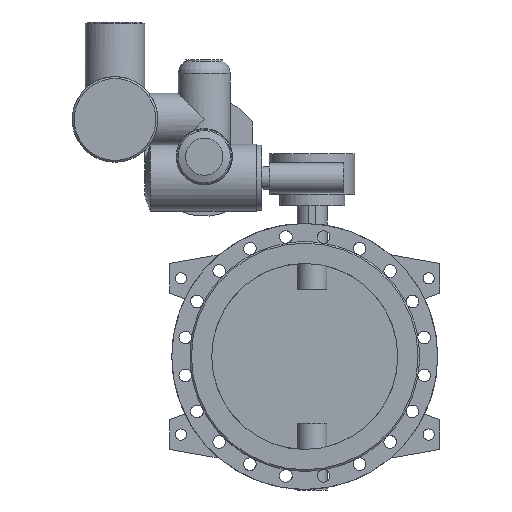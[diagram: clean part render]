
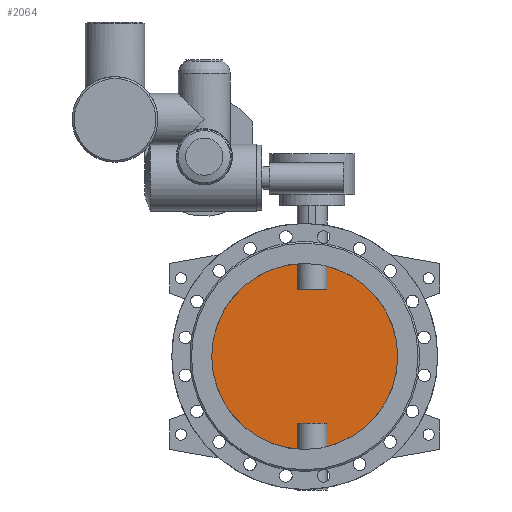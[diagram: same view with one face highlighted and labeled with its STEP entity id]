
A CAD part, front view. The second image highlights one B-rep face of the part: STEP entity #2064.
In plain terms, the highlighted planar face has unit normal (0, -1, 0).
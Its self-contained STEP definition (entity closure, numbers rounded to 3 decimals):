
#2064=ADVANCED_FACE('',(#4057),#4059,.F.);
#4057=FACE_BOUND('',#4058,.T.);
#4058=EDGE_LOOP('',(#5239,#5240,#5241,#5242,#5243,#5244,#5245,#5246));
#4059=PLANE('',#4060);
#4060=AXIS2_PLACEMENT_3D('',#4061,#4062,#4063);
#4061=CARTESIAN_POINT('',(0.,-5.,0.));
#4062=DIRECTION('',(0.,1.,0.));
#4063=DIRECTION('',(1.,0.,0.));
#5239=ORIENTED_EDGE('',*,*,#5831,.T.);
#5240=ORIENTED_EDGE('',*,*,#5836,.T.);
#5241=ORIENTED_EDGE('',*,*,#5837,.T.);
#5242=ORIENTED_EDGE('',*,*,#5838,.T.);
#5243=ORIENTED_EDGE('',*,*,#5833,.T.);
#5244=ORIENTED_EDGE('',*,*,#5839,.T.);
#5245=ORIENTED_EDGE('',*,*,#5840,.T.);
#5246=ORIENTED_EDGE('',*,*,#5841,.T.);
#5831=EDGE_CURVE('',#6857,#6858,#6859,.F.);
#5833=EDGE_CURVE('',#6862,#6860,#6863,.F.);
#5836=EDGE_CURVE('',#6858,#6867,#6868,.T.);
#5837=EDGE_CURVE('',#6867,#6869,#6870,.F.);
#5838=EDGE_CURVE('',#6869,#6862,#6871,.F.);
#5839=EDGE_CURVE('',#6860,#6872,#6873,.F.);
#5840=EDGE_CURVE('',#6872,#6874,#6875,.F.);
#5841=EDGE_CURVE('',#6874,#6857,#6876,.T.);
#6857=VERTEX_POINT('',#12769);
#6858=VERTEX_POINT('',#12770);
#6859=CIRCLE('',#12771,250.);
#6860=VERTEX_POINT('',#12775);
#6862=VERTEX_POINT('',#12866);
#6863=CIRCLE('',#12867,250.);
#6867=VERTEX_POINT('',#12972);
#6868=LINE('',#12973,#12974);
#6869=VERTEX_POINT('',#12976);
#6870=LINE('',#12977,#12978);
#6871=LINE('',#12980,#12981);
#6872=VERTEX_POINT('',#12983);
#6873=LINE('',#12984,#12985);
#6874=VERTEX_POINT('',#12987);
#6875=LINE('',#12988,#12989);
#6876=LINE('',#12991,#12992);
#12769=CARTESIAN_POINT('',(59.686,-5.,-242.771));
#12770=CARTESIAN_POINT('',(59.686,-5.,242.771));
#12771=AXIS2_PLACEMENT_3D('',#12772,#12773,#12774);
#12772=CARTESIAN_POINT('',(0.,-5.,0.));
#12773=DIRECTION('',(0.,1.,0.));
#12774=DIRECTION('',(0.239,0.,0.971));
#12775=CARTESIAN_POINT('',(-19.686,-5.,-249.224));
#12866=CARTESIAN_POINT('',(-19.686,-5.,249.224));
#12867=AXIS2_PLACEMENT_3D('',#12868,#12869,#12870);
#12868=CARTESIAN_POINT('',(0.,-5.,0.));
#12869=DIRECTION('',(0.,1.,0.));
#12870=DIRECTION('',(-0.079,0.,-0.997));
#12972=CARTESIAN_POINT('',(59.686,-5.,180.));
#12973=CARTESIAN_POINT('',(59.686,-5.,242.771));
#12974=VECTOR('',#12975,1.);
#12975=DIRECTION('',(0.,0.,-1.));
#12976=CARTESIAN_POINT('',(-19.686,-5.,180.));
#12977=CARTESIAN_POINT('',(-19.686,-5.,180.));
#12978=VECTOR('',#12979,1.);
#12979=DIRECTION('',(1.,0.,0.));
#12980=CARTESIAN_POINT('',(-19.686,-5.,249.224));
#12981=VECTOR('',#12982,1.);
#12982=DIRECTION('',(0.,0.,-1.));
#12983=CARTESIAN_POINT('',(-19.686,-5.,-180.));
#12984=CARTESIAN_POINT('',(-19.686,-5.,-180.));
#12985=VECTOR('',#12986,1.);
#12986=DIRECTION('',(0.,0.,-1.));
#12987=CARTESIAN_POINT('',(59.686,-5.,-180.));
#12988=CARTESIAN_POINT('',(59.686,-5.,-180.));
#12989=VECTOR('',#12990,1.);
#12990=DIRECTION('',(-1.,0.,0.));
#12991=CARTESIAN_POINT('',(59.686,-5.,-180.));
#12992=VECTOR('',#12993,1.);
#12993=DIRECTION('',(0.,0.,-1.));
